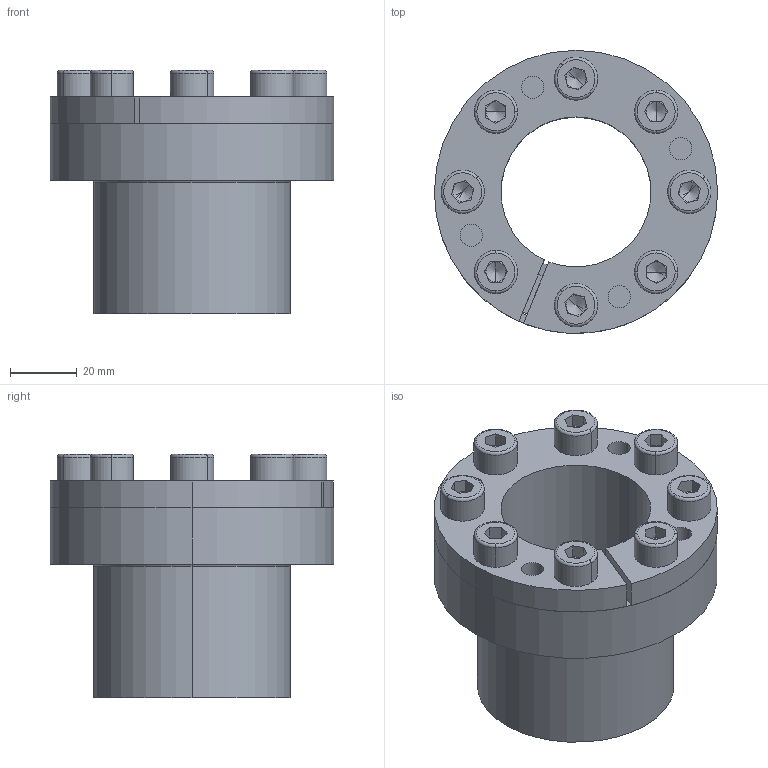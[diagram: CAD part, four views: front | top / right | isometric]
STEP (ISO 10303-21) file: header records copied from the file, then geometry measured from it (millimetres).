
FILE_DESCRIPTION (( 'STEP AP214' ), '1' );
FILE_NAME ('CONEX-B-45x59.step', '2019-09-25T11:04:02', ( '' ), ( '' ), 'SwSTEP 2.0', 'SolidWorks 2018', '' );
FILE_SCHEMA (( 'AUTOMOTIVE_DESIGN' ));
Length unit declared in the file: millimetre
Products named in the file (1): CONEX-B-45x59
Bounding box: 85 x 85 x 73.02 mm (x, y, z)
Volume: 136238.8 mm3; surface area: 73321.8 mm2
Topology: 11 solids, 11 shells, 296 faces, 682 edges, 408 vertices
Faces by surface type: plane 132, cylinder 88, torus 38, cone 38
Entity records: 11754 total; most frequent: DIRECTION 1578, CARTESIAN_POINT 1425, ORIENTED_EDGE 1332, EDGE_CURVE 666, AXIS2_PLACEMENT_3D 623, VERTEX_POINT 408, EDGE_LOOP 354, LINE 332
